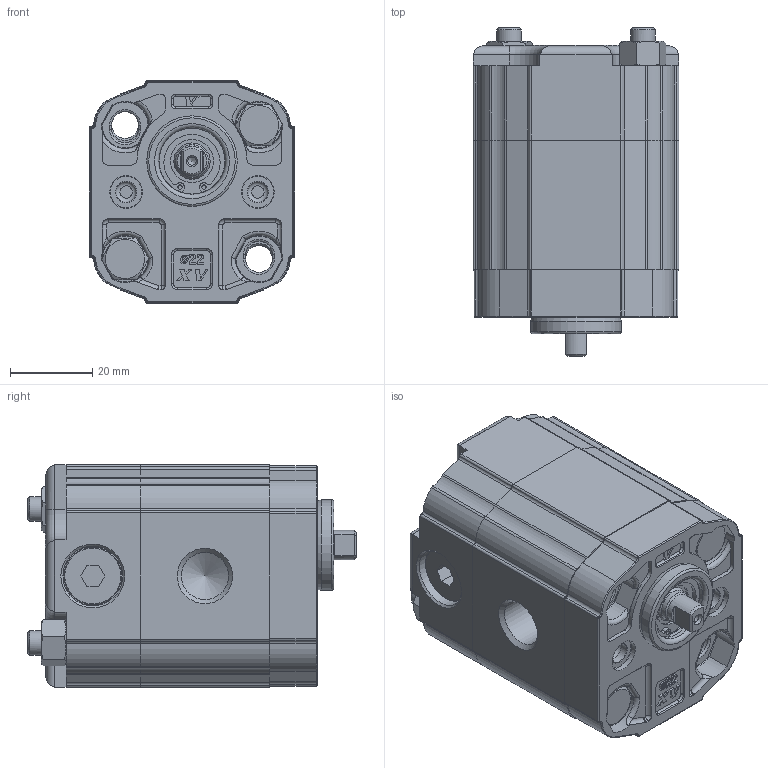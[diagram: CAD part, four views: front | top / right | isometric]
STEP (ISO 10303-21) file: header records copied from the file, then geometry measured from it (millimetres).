
FILE_DESCRIPTION(/* description */ ('Unknown'),/* implementation_level */ '2;1');
FILE_NAME(/* name */ 'X0M0421BBBF',/* time_stamp */ '2021-06-04T14:08:45+02:00',/* author */ ('Unknown'),/* organization */ ('Unknown'),/* preprocessor_version */ 'ST-DEVELOPER v16.7',/* originating_system */ 'Solid Edge',/* authorisation */ 'Unknown');
FILE_SCHEMA (('AUTOMOTIVE_DESIGN {1 0 10303 214 3 1 1}'));
Length unit declared in the file: millimetre
Products named in the file (5): X0M0421BBBF; X0M21; 0B; X0BBH31,5; XM017-F
Assembly tree (4 placements, depth 2):
  X0M0421BBBF
    X0M21
    0B
    X0BBH31,5
    XM017-F
Bounding box: 50 x 79.8 x 54 mm (x, y, z)
Volume: 145329.4 mm3; surface area: 38204.7 mm2
Topology: 4 solids, 9 shells, 813 faces, 2079 edges, 1319 vertices
Faces by surface type: plane 350, cylinder 289, cone 71, torus 69, bspline 30, sphere 4
Full cylindrical faces by diameter (mm): 1.053 x2, 2 x1, 5 x2, 6 x4, 6.01 x2, 6.5 x6, 7.16 x1, 7.5 x2, 7.9 x2, 7.92 x1, 8 x2, 8.1 x2, 8.566 x6, 9.318 x1, 10 x4, 10.445 x1, 11 x1, 11.445 x2, 14 x5, 14.5 x2, 16 x1, 16.2 x1, 16.8 x1, 22 x1
Entity records: 29928 total; most frequent: CARTESIAN_POINT 4876, DIRECTION 4145, ORIENTED_EDGE 3862, EDGE_CURVE 1931, AXIS2_PLACEMENT_3D 1563, VERTEX_POINT 1279, LINE 1019, VECTOR 1019
